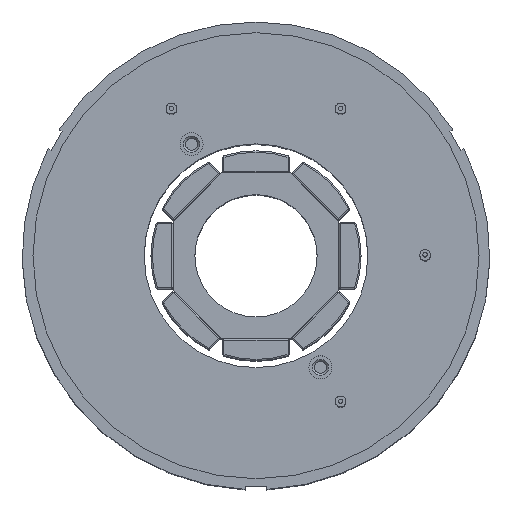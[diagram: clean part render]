
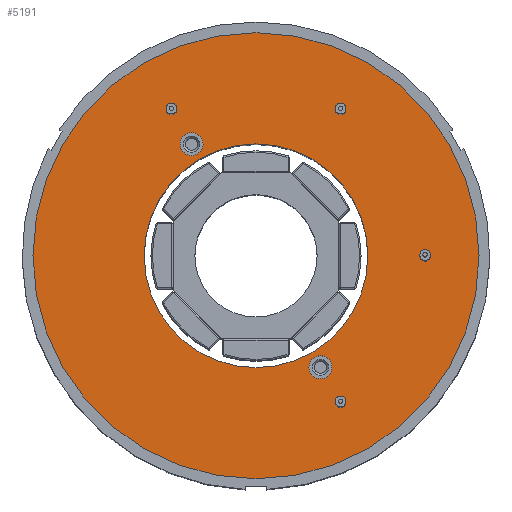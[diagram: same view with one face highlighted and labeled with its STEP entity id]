
A CAD part, top view. The second image highlights one B-rep face of the part: STEP entity #5191.
In plain terms, the highlighted planar face has unit normal (0, 0, 1).
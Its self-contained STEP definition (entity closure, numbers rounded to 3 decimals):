
#360=CIRCLE('',#5858,1.6);
#362=CIRCLE('',#5861,1.6);
#363=CIRCLE('',#5863,0.5);
#364=CIRCLE('',#5864,0.5);
#365=CIRCLE('',#5865,0.5);
#366=CIRCLE('',#5866,0.5);
#367=CIRCLE('',#5867,15.55);
#368=CIRCLE('',#5868,31.);
#1551=ORIENTED_EDGE('',*,*,#2457,.T.);
#1552=ORIENTED_EDGE('',*,*,#2459,.T.);
#1553=ORIENTED_EDGE('',*,*,#2460,.T.);
#1554=ORIENTED_EDGE('',*,*,#2461,.T.);
#1555=ORIENTED_EDGE('',*,*,#2462,.T.);
#1556=ORIENTED_EDGE('',*,*,#2463,.T.);
#1557=ORIENTED_EDGE('',*,*,#2464,.T.);
#1558=ORIENTED_EDGE('',*,*,#2465,.F.);
#2457=EDGE_CURVE('',#3093,#3093,#360,.T.);
#2459=EDGE_CURVE('',#3095,#3095,#362,.T.);
#2460=EDGE_CURVE('',#3096,#3096,#363,.T.);
#2461=EDGE_CURVE('',#3097,#3097,#364,.T.);
#2462=EDGE_CURVE('',#3098,#3098,#365,.T.);
#2463=EDGE_CURVE('',#3099,#3099,#366,.T.);
#2464=EDGE_CURVE('',#3100,#3100,#367,.T.);
#2465=EDGE_CURVE('',#3101,#3101,#368,.T.);
#3093=VERTEX_POINT('',#11314);
#3095=VERTEX_POINT('',#11319);
#3096=VERTEX_POINT('',#11322);
#3097=VERTEX_POINT('',#11324);
#3098=VERTEX_POINT('',#11326);
#3099=VERTEX_POINT('',#11328);
#3100=VERTEX_POINT('',#11330);
#3101=VERTEX_POINT('',#11332);
#4486=EDGE_LOOP('',(#1551));
#4487=EDGE_LOOP('',(#1552));
#4488=EDGE_LOOP('',(#1553));
#4489=EDGE_LOOP('',(#1554));
#4490=EDGE_LOOP('',(#1555));
#4491=EDGE_LOOP('',(#1556));
#4492=EDGE_LOOP('',(#1557));
#4493=EDGE_LOOP('',(#1558));
#4802=FACE_BOUND('',#4486,.T.);
#4803=FACE_BOUND('',#4487,.T.);
#4804=FACE_BOUND('',#4488,.T.);
#4805=FACE_BOUND('',#4489,.T.);
#4806=FACE_BOUND('',#4490,.T.);
#4807=FACE_BOUND('',#4491,.T.);
#4808=FACE_BOUND('',#4492,.T.);
#4809=FACE_BOUND('',#4493,.T.);
#4953=PLANE('',#5862);
#5191=ADVANCED_FACE('',(#4802,#4803,#4804,#4805,#4806,#4807,#4808,#4809),
#4953,.F.);
#5858=AXIS2_PLACEMENT_3D('',#11313,#7210,#7211);
#5861=AXIS2_PLACEMENT_3D('',#11318,#7216,#7217);
#5862=AXIS2_PLACEMENT_3D('',#11320,#7218,#7219);
#5863=AXIS2_PLACEMENT_3D('',#11321,#7220,#7221);
#5864=AXIS2_PLACEMENT_3D('',#11323,#7222,#7223);
#5865=AXIS2_PLACEMENT_3D('',#11325,#7224,#7225);
#5866=AXIS2_PLACEMENT_3D('',#11327,#7226,#7227);
#5867=AXIS2_PLACEMENT_3D('',#11329,#7228,#7229);
#5868=AXIS2_PLACEMENT_3D('',#11331,#7230,#7231);
#7210=DIRECTION('',(0.,0.,-1.));
#7211=DIRECTION('',(0.,-1.,0.));
#7216=DIRECTION('',(0.,0.,-1.));
#7217=DIRECTION('',(0.,-1.,0.));
#7218=DIRECTION('',(0.,0.,-1.));
#7219=DIRECTION('',(-1.,0.,0.));
#7220=DIRECTION('',(0.,0.,-1.));
#7221=DIRECTION('',(0.,-1.,0.));
#7222=DIRECTION('',(0.,0.,-1.));
#7223=DIRECTION('',(0.,-1.,0.));
#7224=DIRECTION('',(0.,0.,-1.));
#7225=DIRECTION('',(0.,-1.,0.));
#7226=DIRECTION('',(0.,0.,-1.));
#7227=DIRECTION('',(0.,-1.,0.));
#7228=DIRECTION('',(0.,0.,-1.));
#7229=DIRECTION('',(1.,0.,0.));
#7230=DIRECTION('',(0.,0.,-1.));
#7231=DIRECTION('',(1.,0.,0.));
#11313=CARTESIAN_POINT('',(8.955,-15.511,31.25));
#11314=CARTESIAN_POINT('',(8.955,-17.111,31.25));
#11318=CARTESIAN_POINT('',(-8.955,15.511,31.25));
#11319=CARTESIAN_POINT('',(-8.955,13.911,31.25));
#11320=CARTESIAN_POINT('',(0.,0.,31.25));
#11321=CARTESIAN_POINT('',(-11.75,20.352,31.25));
#11322=CARTESIAN_POINT('',(-11.75,19.852,31.25));
#11323=CARTESIAN_POINT('',(11.75,-20.352,31.25));
#11324=CARTESIAN_POINT('',(11.75,-20.852,31.25));
#11325=CARTESIAN_POINT('',(23.5,0.,31.25));
#11326=CARTESIAN_POINT('',(23.5,-0.5,31.25));
#11327=CARTESIAN_POINT('',(11.75,20.352,31.25));
#11328=CARTESIAN_POINT('',(11.75,19.852,31.25));
#11329=CARTESIAN_POINT('',(0.,0.,31.25));
#11330=CARTESIAN_POINT('',(15.55,0.,31.25));
#11331=CARTESIAN_POINT('',(0.,0.,31.25));
#11332=CARTESIAN_POINT('',(31.,0.,31.25));
